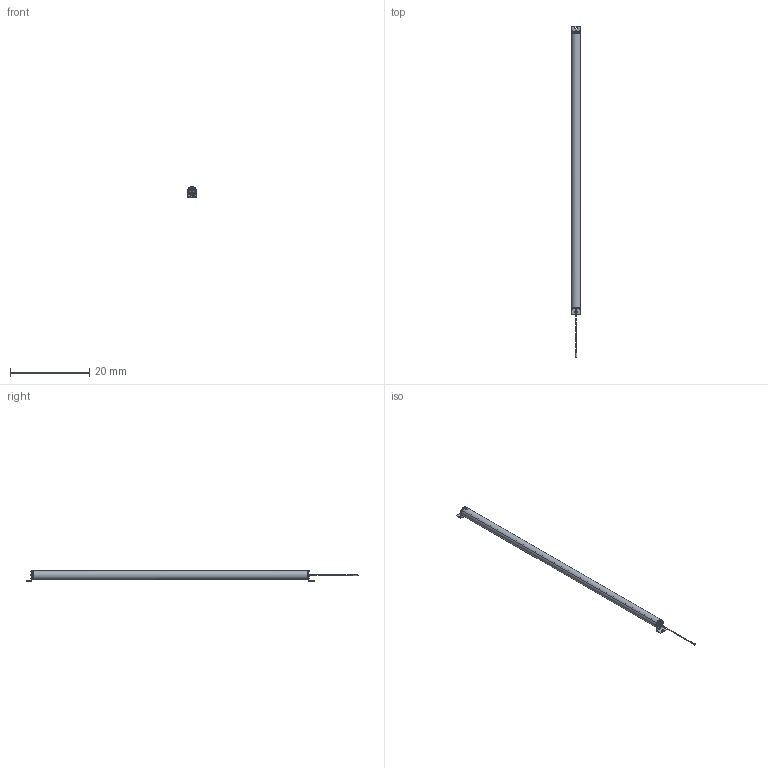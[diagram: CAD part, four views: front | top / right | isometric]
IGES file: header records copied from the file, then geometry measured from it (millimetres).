
Start section:  Autodesk DirectConnect version 7.0.27.0 ---- IGES version 5.3
Global section: file name: C:\ACADFILES\SS_PYLONS\CUSTOMER_FILES\SS-68-PYLON_3D_SMB_PT.iges; native system: Autodesk DirectConnect 7.0.27.0; preprocessor: 7.0.27.0; author: ENGINEERMAIN; organization: Unknown; date: 20150810.130016; units: millimetre
Bounding box: 2.26 x 84.01 x 2.75 mm (x, y, z)
Surface area: 2010 mm2 (no closed solid volume)
Topology: 0 solids, 0 shells, 772 faces, 3944 edges, 3944 vertices
Faces by surface type: bspline 772
